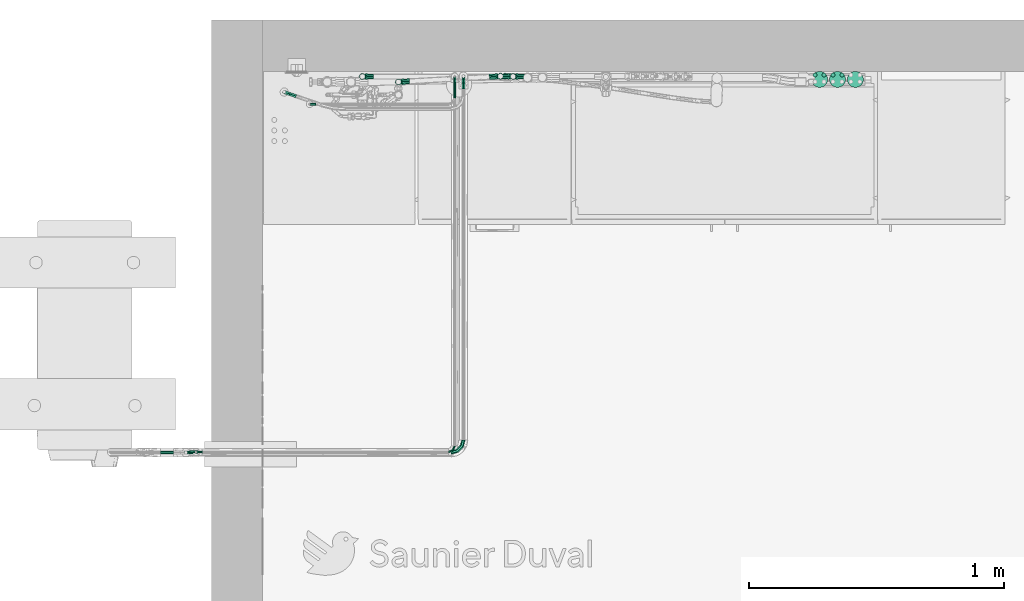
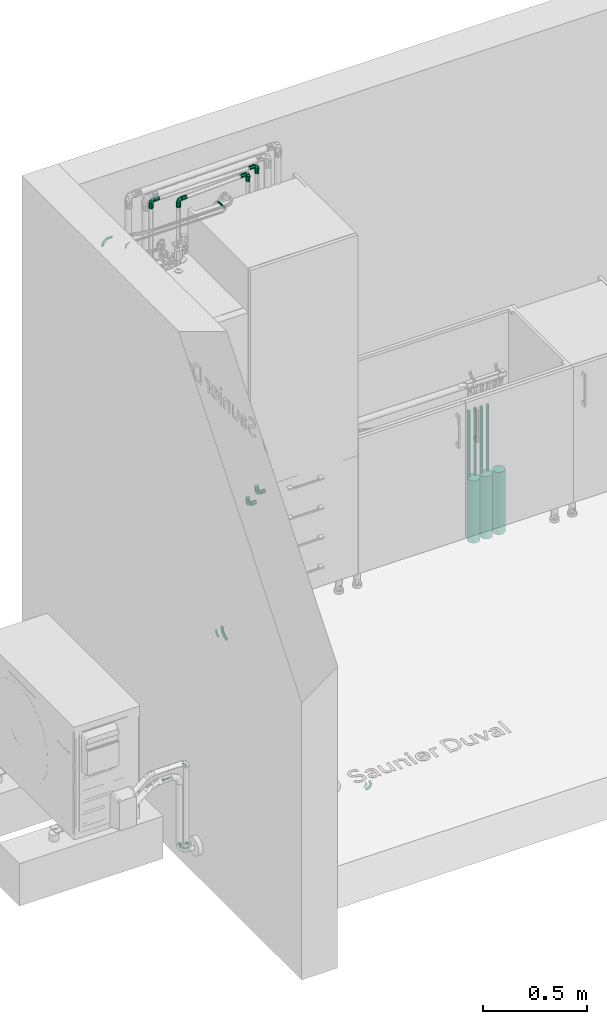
# One storey, part 21 of 30: 15 flow fittings, 9 flow segments.
"""IFC2X3 building model written with IfcOpenShell, lengths in metres."""

from ifc_helpers import new_model, entity, si_unit, converted_unit, derived_unit, direction, frame, frame_2d, origin, origin_2d_with_axis, place, context, subcontext, project, spatial, circle, extrude, faceted_brep, source, transform, mapped, material, material_list, type_object, type_shapes, element, save


model = new_model("IFC2X3")

# Units and contexts
model_context = context("Model", 3, precision=1e-05, world=origin(), true_north=direction((6.123031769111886e-17, 1.0)))
body_context = subcontext(model_context, "Body", "Model", "MODEL_VIEW")
ifc_project = project(units=[si_unit("LENGTHUNIT", "METRE"), si_unit("AREAUNIT", "SQUARE_METRE"), si_unit("VOLUMEUNIT", "CUBIC_METRE"), converted_unit("PLANEANGLEUNIT", "DEGREE", entity("IfcPlaneAngleMeasure", 0.017453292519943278), si_unit("PLANEANGLEUNIT", "RADIAN"), dimensions=[0, 0, 0, 0, 0, 0, 0]), si_unit("MASSUNIT", "GRAM", prefix="KILO"), derived_unit("MASSDENSITYUNIT", [(si_unit("MASSUNIT", "GRAM", prefix="KILO"), 1), (si_unit("LENGTHUNIT", "METRE"), -3)]), derived_unit("IONCONCENTRATIONUNIT", [(si_unit("MASSUNIT", "GRAM", prefix="KILO"), 1), (si_unit("LENGTHUNIT", "METRE"), -3)]), derived_unit("MOMENTOFINERTIAUNIT", [(si_unit("LENGTHUNIT", "METRE"), 4)]), si_unit("TIMEUNIT", "SECOND"), si_unit("FREQUENCYUNIT", "HERTZ"), si_unit("THERMODYNAMICTEMPERATUREUNIT", "DEGREE_CELSIUS"), derived_unit("THERMALTRANSMITTANCEUNIT", [(si_unit("MASSUNIT", "GRAM", prefix="KILO"), 1), (si_unit("THERMODYNAMICTEMPERATUREUNIT", "KELVIN"), -1), (si_unit("TIMEUNIT", "SECOND"), -3)]), derived_unit("THERMALCONDUCTANCEUNIT", [(si_unit("MASSUNIT", "GRAM", prefix="KILO"), 1), (si_unit("THERMODYNAMICTEMPERATUREUNIT", "KELVIN"), -1), (si_unit("TIMEUNIT", "SECOND"), -3), (si_unit("LENGTHUNIT", "METRE"), 1)]), derived_unit("VOLUMETRICFLOWRATEUNIT", [(si_unit("LENGTHUNIT", "METRE", prefix="DECI"), 3), (si_unit("TIMEUNIT", "SECOND"), -1)]), derived_unit("MASSFLOWRATEUNIT", [(si_unit("MASSUNIT", "GRAM", prefix="KILO"), 1), (si_unit("TIMEUNIT", "SECOND"), -1)]), derived_unit("ROTATIONALFREQUENCYUNIT", [(si_unit("TIMEUNIT", "SECOND"), -1)]), si_unit("ELECTRICCURRENTUNIT", "AMPERE"), si_unit("ELECTRICVOLTAGEUNIT", "VOLT"), si_unit("POWERUNIT", "WATT"), si_unit("FORCEUNIT", "NEWTON", prefix="KILO"), si_unit("ILLUMINANCEUNIT", "LUX"), si_unit("LUMINOUSFLUXUNIT", "LUMEN"), si_unit("LUMINOUSINTENSITYUNIT", "CANDELA"), si_unit("ENERGYUNIT", "JOULE"), derived_unit("USERDEFINED", [(si_unit("MASSUNIT", "GRAM", prefix="KILO"), -1), (si_unit("LENGTHUNIT", "METRE"), -2), (si_unit("TIMEUNIT", "SECOND"), 3), (si_unit("LUMINOUSFLUXUNIT", "LUMEN"), 1)]), derived_unit("USERDEFINED", [(si_unit("MASSUNIT", "GRAM", prefix="KILO"), 1), (si_unit("TIMEUNIT", "SECOND"), -3), (si_unit("LENGTHUNIT", "METRE"), 3), (si_unit("ELECTRICCURRENTUNIT", "AMPERE"), -2)]), derived_unit("SOUNDPOWERUNIT", [(si_unit("MASSUNIT", "GRAM", prefix="KILO"), 1), (si_unit("TIMEUNIT", "SECOND"), -3), (si_unit("LENGTHUNIT", "METRE"), 2)]), derived_unit("SOUNDPRESSUREUNIT", [(si_unit("MASSUNIT", "GRAM", prefix="KILO"), 1), (si_unit("LENGTHUNIT", "METRE"), -1), (si_unit("TIMEUNIT", "SECOND"), -2)]), derived_unit("LINEARVELOCITYUNIT", [(si_unit("LENGTHUNIT", "METRE"), 1), (si_unit("TIMEUNIT", "SECOND"), -1)]), si_unit("PRESSUREUNIT", "PASCAL"), derived_unit("USERDEFINED", [(si_unit("MASSUNIT", "GRAM", prefix="KILO"), 1), (si_unit("LENGTHUNIT", "METRE"), -2), (si_unit("TIMEUNIT", "SECOND"), -2)]), derived_unit("LINEARFORCEUNIT", [(si_unit("MASSUNIT", "GRAM", prefix="KILO"), 1), (si_unit("TIMEUNIT", "SECOND"), -2)]), derived_unit("PLANARFORCEUNIT", [(si_unit("MASSUNIT", "GRAM", prefix="KILO"), 1), (si_unit("LENGTHUNIT", "METRE"), -1), (si_unit("TIMEUNIT", "SECOND"), -2)]), derived_unit("SPECIFICHEATCAPACITYUNIT", [(si_unit("THERMODYNAMICTEMPERATUREUNIT", "KELVIN"), -1), (si_unit("LENGTHUNIT", "METRE"), 2), (si_unit("TIMEUNIT", "SECOND"), -2)]), derived_unit("HEATFLUXDENSITYUNIT", [(si_unit("MASSUNIT", "GRAM", prefix="KILO"), 1), (si_unit("TIMEUNIT", "SECOND"), -3)]), derived_unit("HEATINGVALUEUNIT", [(si_unit("LENGTHUNIT", "METRE"), 2), (si_unit("TIMEUNIT", "SECOND"), -2)]), derived_unit("VAPORPERMEABILITYUNIT", [(si_unit("LENGTHUNIT", "METRE"), -1), (si_unit("TIMEUNIT", "SECOND"), 1)]), derived_unit("DYNAMICVISCOSITYUNIT", [(si_unit("MASSUNIT", "GRAM", prefix="KILO"), 1), (si_unit("TIMEUNIT", "SECOND"), -1), (si_unit("LENGTHUNIT", "METRE"), -1)]), derived_unit("THERMALEXPANSIONCOEFFICIENTUNIT", [(si_unit("THERMODYNAMICTEMPERATUREUNIT", "KELVIN"), -1)]), derived_unit("MODULUSOFELASTICITYUNIT", [(si_unit("MASSUNIT", "GRAM", prefix="KILO"), 1), (si_unit("LENGTHUNIT", "METRE"), -1), (si_unit("TIMEUNIT", "SECOND"), -2)]), derived_unit("ISOTHERMALMOISTURECAPACITYUNIT", [(si_unit("MASSUNIT", "GRAM", prefix="KILO"), -1), (si_unit("LENGTHUNIT", "METRE"), 3)]), derived_unit("MOISTUREDIFFUSIVITYUNIT", [(si_unit("TIMEUNIT", "SECOND"), -1), (si_unit("LENGTHUNIT", "METRE"), 2)]), derived_unit("MASSPERLENGTHUNIT", [(si_unit("MASSUNIT", "GRAM", prefix="KILO"), 1), (si_unit("LENGTHUNIT", "METRE"), -1)]), derived_unit("THERMALRESISTANCEUNIT", [(si_unit("MASSUNIT", "GRAM", prefix="KILO"), -1), (si_unit("TIMEUNIT", "SECOND"), 3), (si_unit("THERMODYNAMICTEMPERATUREUNIT", "KELVIN"), 1)]), derived_unit("ACCELERATIONUNIT", [(si_unit("LENGTHUNIT", "METRE"), 1), (si_unit("TIMEUNIT", "SECOND"), -2)]), derived_unit("ANGULARVELOCITYUNIT", [(si_unit("TIMEUNIT", "SECOND"), -1), (si_unit("PLANEANGLEUNIT", "RADIAN"), 1)]), derived_unit("LINEARSTIFFNESSUNIT", [(si_unit("MASSUNIT", "GRAM", prefix="KILO"), 1), (si_unit("TIMEUNIT", "SECOND"), -2)]), derived_unit("WARPINGCONSTANTUNIT", [(si_unit("LENGTHUNIT", "METRE"), 6)]), derived_unit("LINEARMOMENTUNIT", [(si_unit("MASSUNIT", "GRAM", prefix="KILO"), 1), (si_unit("LENGTHUNIT", "METRE"), 1), (si_unit("TIMEUNIT", "SECOND"), -2)]), derived_unit("TORQUEUNIT", [(si_unit("MASSUNIT", "GRAM", prefix="KILO"), 1), (si_unit("LENGTHUNIT", "METRE"), 2), (si_unit("TIMEUNIT", "SECOND"), -2)])], contexts=[model_context])

# Site, building, storey
site_placement = place(None, origin())
site = spatial("IfcSite", under=ifc_project, at=site_placement, Name="Default", CompositionType="ELEMENT")
building_placement = place(site_placement, origin())
building = spatial("IfcBuilding", under=site, at=building_placement, CompositionType="ELEMENT")
storey_placement = place(building_placement, origin())
storey = spatial("IfcBuildingStorey", under=building, at=storey_placement, Name="Niveau 0", CompositionType="ELEMENT", Elevation=-1.949160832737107e-14)

# Flow fittings
ifc_material_1 = material(Name="Cuivre")
pipe_fitting_type_1 = type_object("IfcPipeFittingType", Name="Coude - tube frigo:Standard", PredefinedType="NOTDEFINED", material=ifc_material_1)
shared_shape_1 = source(origin(), body_context, "Body", "Brep", [
    faceted_brep([(-0.004088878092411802, 0.004088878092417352, 0.0), (-0.007058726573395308, 0.007058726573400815, -0.004200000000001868), (0.0, 0.024099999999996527, -0.004200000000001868), (0.0042000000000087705, 0.024099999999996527, 0.0), (-0.010028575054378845, 0.010028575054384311, 0.0), (-0.00419999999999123, 0.024099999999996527, 0.0), (-0.00705872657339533, 0.007058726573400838, 0.004199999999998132), (0.0, 0.024099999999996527, 0.004199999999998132), (-0.024099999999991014, -0.004200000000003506, 0.0), (-0.024099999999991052, 0.0, -0.004200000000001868), (-0.02409999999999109, 0.0041999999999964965, 0.0), (-0.024099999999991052, 0.0, 0.004199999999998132)], [[[0, 1, 2, 3]], [[1, 4, 5, 2]], [[4, 6, 7, 5]], [[6, 0, 3, 7]], [[8, 9, 1, 0]], [[9, 10, 4, 1]], [[10, 11, 6, 4]], [[11, 8, 0, 6]], [[3, 2, 5, 7]], [[11, 10, 9, 8]]]),
])
type_shapes(pipe_fitting_type_1, [shared_shape_1])
for number, where, z_axis, x_axis, name in (
    (1, (-19.86316439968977, 2.8482764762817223, -0.3999999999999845), (-1.0, 0.0, 0.0), (0.0, 0.0, -1.0), "Coude - tube frigo:Standard"),
    (2, (-20.87690869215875, 1.377053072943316, 0.09334358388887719), (0.0, 1.0, 0.0), (1.0, 0.0, 0.0), "Coude - tube frigo:Standard"),
):
    element("IfcFlowFitting", number, at=place(storey_placement, frame(where, z_axis=z_axis, x_axis=x_axis)), inside=storey, type_object=pipe_fitting_type_1, material=ifc_material_1, Name=name, ObjectType="Coude - tube frigo:Standard", context=body_context, shape_type="MappedRepresentation", body=[
        mapped(shared_shape_1, transform((0.0, 0.0, 0.0), scale=1.0)),
    ])
flow_fitting_1_placement = place(storey_placement, frame((-19.863164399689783, 1.3770530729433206, -0.3999999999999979)))
element("IfcFlowFitting", 3, at=flow_fitting_1_placement, inside=storey, type_object=pipe_fitting_type_1, material=ifc_material_1, Name="Coude - tube frigo:Standard", ObjectType="Coude - tube frigo:Standard", context=body_context, shape_type="MappedRepresentation", body=[
    mapped(shared_shape_1, transform((0.0, 0.0, 0.0), scale=1.0)),
])
for number, where, z_axis, x_axis, name in (
    (4, (-20.876908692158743, 1.377053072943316, -0.3999999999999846), (0.0, -1.0, 0.0), (0.0, 0.0, -1.0), "Coude - tube frigo:Standard"),
    (5, (-20.43128939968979, 2.7395264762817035, 2.162088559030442), (0.0, 1.0, 0.0), (0.0, 0.0, 1.0), "Coude - tube frigo:Standard"),
):
    element("IfcFlowFitting", number, at=place(storey_placement, frame(where, z_axis=z_axis, x_axis=x_axis)), inside=storey, type_object=pipe_fitting_type_1, material=ifc_material_1, Name=name, ObjectType="Coude - tube frigo:Standard", context=body_context, shape_type="MappedRepresentation", body=[
        mapped(shared_shape_1, transform((0.0, 0.0, 0.0), scale=1.0)),
    ])

# Flow segments
pipe_segment_type_1 = type_object("IfcPipeSegmentType", Name="Canalisation:PVC - NF", PredefinedType="NOTDEFINED")
flow_segment_1_placement = place(storey_placement, origin())
element("IfcFlowSegment", 6, at=flow_segment_1_placement, inside=storey, type_object=pipe_segment_type_1, Name="Canalisation:PVC - NF", ObjectType="Canalisation:PVC - NF", context=body_context, shape_type="SweptSolid", body=[
    extrude(circle(Radius=0.0315, at=frame_2d((2.1657342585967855e-15, -5.414335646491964e-16), x_axis=(1.0, 0.0))), frame((-18.43354113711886, 2.836757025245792, -0.3365000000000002)), (0.0, 0.0, 1.0), 0.3681530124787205),
])
flow_segment_2_placement = place(storey_placement, origin())
element("IfcFlowSegment", 7, at=flow_segment_2_placement, inside=storey, type_object=pipe_segment_type_1, Name="Canalisation:PVC - NF", ObjectType="Canalisation:PVC - NF", context=body_context, shape_type="SweptSolid", body=[
    extrude(circle(Radius=0.0315, at=frame_2d((0.0, -5.414335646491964e-16), x_axis=(1.0, 0.0))), frame((-18.36354113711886, 2.836757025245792, -0.3365000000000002)), (0.0, 0.0, 1.0), 0.3681530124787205),
])
flow_segment_3_placement = place(storey_placement, origin())
element("IfcFlowSegment", 8, at=flow_segment_3_placement, inside=storey, type_object=pipe_segment_type_1, Name="Canalisation:PVC - NF", ObjectType="Canalisation:PVC - NF", context=body_context, shape_type="SweptSolid", body=[
    extrude(circle(Radius=0.0315, at=origin_2d_with_axis()), frame((-18.293541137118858, 2.836757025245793, -0.3365000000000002)), (0.0, 0.0, 1.0), 0.3681530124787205),
])
pipe_segment_type_2 = type_object("IfcPipeSegmentType", Name="Canalisation:Cuivre Frigo", PredefinedType="NOTDEFINED")
flow_segment_4_placement = place(storey_placement, origin())
element("IfcFlowSegment", 9, at=flow_segment_4_placement, inside=storey, type_object=pipe_segment_type_2, Name="Canalisation:Cuivre Frigo", ObjectType="Canalisation:Cuivre Frigo", context=body_context, shape_type="SweptSolid", body=[
    extrude(circle(Radius=0.00635, at=frame_2d((0.0, -4.229949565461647e-18), x_axis=(1.0, 0.0))), frame((-21.015311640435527, 1.3750530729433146, 0.03567251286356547), z_axis=(0.9999999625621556, 0.0, 0.0002736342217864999), x_axis=(0.0, 1.0, 0.0)), (0.0, 0.0, 1.0), 0.04967560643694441),
])
flow_segment_5_placement = place(storey_placement, origin())
element("IfcFlowSegment", 10, at=flow_segment_5_placement, inside=storey, type_object=pipe_segment_type_2, Name="Canalisation:Cuivre Frigo", ObjectType="Canalisation:Cuivre Frigo", context=body_context, shape_type="SweptSolid", body=[
    extrude(circle(Radius=0.0032, at=frame_2d((0.0, -2.707167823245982e-16), x_axis=(1.0, 0.0))), frame((-19.86316439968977, 2.7636264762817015, 2.1620885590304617), z_axis=(0.0, 1.0, 0.0), x_axis=(1.0, 0.0, 0.0)), (0.0, 0.0, 1.0), 0.0605500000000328),
])

# Flow fittings
ifc_material_2 = material(Name="PPSU")
ifc_material_3 = material(Name="Bague blanche VisuControl")
ifc_material_4 = material(Name="Inox")
ifc_material_list_1 = material_list([ifc_material_2, ifc_material_3, ifc_material_4])
pipe_fitting_type_2 = type_object("IfcPipeFittingType", Name="COMAP - SKINPRESS ppsu - Coude_45_90_9041W_9090W:Coude_45_90_9041W_9090W", PredefinedType="NOTDEFINED", material=ifc_material_list_1)
shared_shape_2 = source(origin(), body_context, "Body", "Brep", [
    faceted_brep([(0.010825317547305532, 0.01600000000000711, -0.006250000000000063), (0.012500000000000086, 0.016000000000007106, 0.0), (0.010825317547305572, 0.01600000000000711, 0.006249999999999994), (0.003235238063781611, 0.016000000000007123, 0.012074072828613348), (-0.0032352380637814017, 0.016000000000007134, 0.012074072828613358), (-0.010825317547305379, 0.016000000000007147, 0.006250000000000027), (-0.012499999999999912, 0.01600000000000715, 0.0), (-0.010825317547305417, 0.016000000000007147, -0.006249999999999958), (-0.003235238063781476, 0.016000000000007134, -0.01207407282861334), (0.003235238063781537, 0.016000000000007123, -0.012074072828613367), (-0.010825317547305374, 0.020000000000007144, 0.006250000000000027), (-0.003235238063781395, 0.020000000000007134, 0.012074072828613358), (0.0032352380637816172, 0.020000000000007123, 0.012074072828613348), (0.010825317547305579, 0.020000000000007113, 0.006249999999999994), (0.012500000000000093, 0.020000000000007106, 0.0), (0.010825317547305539, 0.020000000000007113, -0.006250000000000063), (0.0032352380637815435, 0.020000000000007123, -0.012074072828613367), (-0.0032352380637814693, 0.020000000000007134, -0.01207407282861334), (-0.01082531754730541, 0.020000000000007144, -0.006249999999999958), (-0.012499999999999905, 0.02000000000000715, 0.0)], [[[0, 1, 2, 3, 4, 5, 6, 7, 8, 9]], [[10, 11, 12, 13, 14, 15, 16, 17, 18, 19]], [[7, 6, 19, 18]], [[8, 7, 18, 17]], [[17, 16, 9, 8]], [[0, 9, 16, 15]], [[1, 0, 15, 14]], [[2, 1, 14, 13]], [[3, 2, 13, 12]], [[12, 11, 4, 3]], [[5, 4, 11, 10]], [[6, 5, 10, 19]]]),
    faceted_brep([(0.009526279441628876, 0.015000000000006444, -0.005500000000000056), (0.011000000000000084, 0.015000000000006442, 0.0), (0.009526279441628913, 0.015000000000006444, 0.0054999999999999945), (0.002847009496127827, 0.015000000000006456, 0.010625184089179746), (-0.002847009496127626, 0.015000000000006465, 0.010625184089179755), (-0.009526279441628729, 0.015000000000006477, 0.005500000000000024), (-0.010999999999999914, 0.01500000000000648, 0.0), (-0.009526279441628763, 0.015000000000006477, -0.005499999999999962), (-0.0028470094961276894, 0.015000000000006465, -0.010625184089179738), (0.0028470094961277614, 0.015000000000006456, -0.010625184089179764), (-0.010999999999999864, 0.04400000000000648, 0.0), (-0.009526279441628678, 0.04400000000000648, 0.005500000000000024), (-0.0028470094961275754, 0.04400000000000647, 0.010625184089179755), (0.0028470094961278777, 0.04400000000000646, 0.010625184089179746), (0.009526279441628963, 0.044000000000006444, 0.0054999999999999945), (0.011000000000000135, 0.044000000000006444, 0.0), (0.009526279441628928, 0.044000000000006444, -0.005500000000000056), (0.002847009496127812, 0.04400000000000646, -0.010625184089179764), (-0.0028470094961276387, 0.04400000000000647, -0.010625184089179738), (-0.009526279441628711, 0.04400000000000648, -0.005499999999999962)], [[[0, 1, 2, 3, 4, 5, 6, 7, 8, 9]], [[10, 11, 12, 13, 14, 15, 16, 17, 18, 19]], [[7, 6, 10, 19]], [[8, 7, 19, 18]], [[18, 17, 9, 8]], [[0, 9, 17, 16]], [[1, 0, 16, 15]], [[2, 1, 15, 14]], [[3, 2, 14, 13]], [[13, 12, 4, 3]], [[5, 4, 12, 11]], [[6, 5, 11, 10]]]),
    faceted_brep([(-0.015999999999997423, 0.010825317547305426, -0.006250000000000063), (-0.01599999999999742, 0.01249999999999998, 0.0), (-0.015999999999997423, 0.010825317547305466, 0.006249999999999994), (-0.015999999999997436, 0.0032352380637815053, 0.012074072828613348), (-0.015999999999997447, -0.0032352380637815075, 0.012074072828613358), (-0.015999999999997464, -0.010825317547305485, 0.006250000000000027), (-0.015999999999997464, -0.012500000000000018, 0.0), (-0.015999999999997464, -0.010825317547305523, -0.006249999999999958), (-0.015999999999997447, -0.0032352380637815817, -0.01207407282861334), (-0.015999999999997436, 0.003235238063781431, -0.012074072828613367), (-0.019999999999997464, -0.010825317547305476, 0.006250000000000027), (-0.01999999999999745, -0.003235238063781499, 0.012074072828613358), (-0.019999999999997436, 0.0032352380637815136, 0.012074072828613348), (-0.019999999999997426, 0.010825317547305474, 0.006249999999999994), (-0.01999999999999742, 0.012499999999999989, 0.0), (-0.019999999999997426, 0.010825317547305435, -0.006250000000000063), (-0.019999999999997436, 0.00323523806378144, -0.012074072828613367), (-0.01999999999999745, -0.003235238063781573, -0.01207407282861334), (-0.019999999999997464, -0.010825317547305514, -0.006249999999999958), (-0.019999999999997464, -0.01250000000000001, 0.0)], [[[0, 1, 2, 3, 4, 5, 6, 7, 8, 9]], [[10, 11, 12, 13, 14, 15, 16, 17, 18, 19]], [[7, 6, 19, 18]], [[8, 7, 18, 17]], [[17, 16, 9, 8]], [[0, 9, 16, 15]], [[1, 0, 15, 14]], [[2, 1, 14, 13]], [[3, 2, 13, 12]], [[12, 11, 4, 3]], [[5, 4, 11, 10]], [[6, 5, 10, 19]]]),
    faceted_brep([(-0.014999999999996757, 0.009526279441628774, -0.005500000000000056), (-0.014999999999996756, 0.01099999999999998, 0.0), (-0.014999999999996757, 0.009526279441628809, 0.0054999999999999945), (-0.01499999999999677, 0.0028470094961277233, 0.010625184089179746), (-0.01499999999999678, -0.0028470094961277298, 0.010625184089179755), (-0.01499999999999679, -0.009526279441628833, 0.005500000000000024), (-0.014999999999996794, -0.011000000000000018, 0.0), (-0.01499999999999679, -0.009526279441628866, -0.005499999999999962), (-0.01499999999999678, -0.002847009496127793, -0.010625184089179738), (-0.01499999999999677, 0.002847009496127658, -0.010625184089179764), (-0.0439999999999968, -0.010999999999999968, 0.0), (-0.04399999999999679, -0.009526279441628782, 0.005500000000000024), (-0.043999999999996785, -0.002847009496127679, 0.010625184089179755), (-0.04399999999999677, 0.002847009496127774, 0.010625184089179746), (-0.04399999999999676, 0.00952627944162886, 0.0054999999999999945), (-0.04399999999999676, 0.01100000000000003, 0.0), (-0.04399999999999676, 0.009526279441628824, -0.005500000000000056), (-0.04399999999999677, 0.0028470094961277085, -0.010625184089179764), (-0.043999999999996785, -0.0028470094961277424, -0.010625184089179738), (-0.04399999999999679, -0.009526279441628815, -0.005499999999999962)], [[[0, 1, 2, 3, 4, 5, 6, 7, 8, 9]], [[10, 11, 12, 13, 14, 15, 16, 17, 18, 19]], [[7, 6, 10, 19]], [[8, 7, 19, 18]], [[18, 17, 9, 8]], [[0, 9, 17, 16]], [[1, 0, 16, 15]], [[2, 1, 15, 14]], [[3, 2, 14, 13]], [[13, 12, 4, 3]], [[5, 4, 12, 11]], [[6, 5, 11, 10]]]),
    faceted_brep([(-0.01499999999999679, -0.009526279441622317, -0.005500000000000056), (-0.014999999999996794, -0.010999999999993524, 0.0), (-0.01499999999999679, -0.009526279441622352, 0.0054999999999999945), (-0.01499999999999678, -0.0028470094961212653, 0.010625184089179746), (-0.01499999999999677, 0.0028470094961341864, 0.010625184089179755), (-0.014999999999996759, 0.00952627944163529, 0.005500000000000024), (-0.014999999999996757, 0.011000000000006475, 0.0), (-0.014999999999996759, 0.009526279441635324, -0.005499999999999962), (-0.01499999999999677, 0.0028470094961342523, -0.010625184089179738), (-0.01499999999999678, -0.0028470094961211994, -0.010625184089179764), (-0.011999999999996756, 0.011000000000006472, 0.0), (-0.011999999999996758, 0.009526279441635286, 0.005500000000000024), (-0.011999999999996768, 0.0028470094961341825, 0.010625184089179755), (-0.011999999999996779, -0.0028470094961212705, 0.010625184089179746), (-0.01199999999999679, -0.009526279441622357, 0.0054999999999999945), (-0.011999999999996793, -0.010999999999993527, 0.0), (-0.01199999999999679, -0.00952627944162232, -0.005500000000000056), (-0.011999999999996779, -0.002847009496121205, -0.010625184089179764), (-0.011999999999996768, 0.002847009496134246, -0.010625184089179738), (-0.011999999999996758, 0.009526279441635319, -0.005499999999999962)], [[[0, 1, 2, 3, 4, 5, 6, 7, 8, 9]], [[10, 11, 12, 13, 14, 15, 16, 17, 18, 19]], [[7, 6, 10, 19]], [[8, 7, 19, 18]], [[18, 17, 9, 8]], [[0, 9, 17, 16]], [[1, 0, 16, 15]], [[2, 1, 15, 14]], [[3, 2, 14, 13]], [[13, 12, 4, 3]], [[5, 4, 12, 11]], [[6, 5, 11, 10]]]),
    faceted_brep([(-0.0054999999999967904, 0.015000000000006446, 0.009526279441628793), (0.0, 0.015000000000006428, 0.011), (0.00550000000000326, 0.015000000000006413, 0.009526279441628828), (0.010625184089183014, 0.015000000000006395, 0.0028470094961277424), (0.010625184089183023, 0.015000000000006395, -0.0028470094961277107), (0.00550000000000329, 0.015000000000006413, -0.009526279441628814), (0.0, 0.015000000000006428, -0.011), (-0.005499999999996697, 0.015000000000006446, -0.009526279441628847), (-0.010625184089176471, 0.015000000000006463, -0.002847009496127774), (-0.010625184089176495, 0.015000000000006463, 0.002847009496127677), (0.0, 0.012000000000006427, -0.011), (0.00550000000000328, 0.012000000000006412, -0.009526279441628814), (0.010625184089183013, 0.012000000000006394, -0.0028470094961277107), (0.010625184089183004, 0.012000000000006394, 0.0028470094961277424), (0.0055000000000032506, 0.012000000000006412, 0.009526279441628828), (0.0, 0.012000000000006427, 0.011), (-0.0054999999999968, 0.012000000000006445, 0.009526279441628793), (-0.010625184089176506, 0.012000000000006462, 0.002847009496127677), (-0.010625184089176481, 0.012000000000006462, -0.002847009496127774), (-0.005499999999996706, 0.012000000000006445, -0.009526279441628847)], [[[0, 1, 2, 3, 4, 5, 6, 7, 8, 9]], [[10, 11, 12, 13, 14, 15, 16, 17, 18, 19]], [[7, 6, 10, 19]], [[8, 7, 19, 18]], [[18, 17, 9, 8]], [[0, 9, 17, 16]], [[1, 0, 16, 15]], [[2, 1, 15, 14]], [[3, 2, 14, 13]], [[13, 12, 4, 3]], [[5, 4, 12, 11]], [[6, 5, 11, 10]]]),
    faceted_brep([(0.004263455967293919, -0.004263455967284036, 0.0), (0.00037436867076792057, -0.00037436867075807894, -0.009526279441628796), (0.0055000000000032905, 0.012000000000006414, -0.009526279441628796), (0.011000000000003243, 0.012000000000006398, 0.0), (-0.007403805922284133, 0.007403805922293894, -0.009526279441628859), (-0.005499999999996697, 0.012000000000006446, -0.009526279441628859), (-0.011292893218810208, 0.011292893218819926, 0.0), (-0.010999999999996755, 0.012000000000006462, 0.0), (-0.007403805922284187, 0.007403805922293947, 0.009526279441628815), (-0.005499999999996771, 0.012000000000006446, 0.009526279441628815), (0.000374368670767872, -0.00037436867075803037, 0.009526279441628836), (0.005500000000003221, 0.012000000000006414, 0.009526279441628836), (-0.011999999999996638, -0.010999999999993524, 0.0), (-0.011999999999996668, -0.005499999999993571, -0.009526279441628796), (-0.011999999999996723, 0.005500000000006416, -0.009526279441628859), (-0.011999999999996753, 0.011000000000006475, 0.0), (-0.011999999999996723, 0.005500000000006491, 0.009526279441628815), (-0.011999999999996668, -0.005499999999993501, 0.009526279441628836)], [[[0, 1, 2, 3]], [[1, 4, 5, 2]], [[4, 6, 7, 5]], [[6, 8, 9, 7]], [[8, 10, 11, 9]], [[10, 0, 3, 11]], [[12, 13, 1, 0]], [[13, 14, 4, 1]], [[14, 15, 6, 4]], [[15, 16, 8, 6]], [[16, 17, 10, 8]], [[17, 12, 0, 10]], [[3, 2, 5, 7, 9, 11]], [[17, 16, 15, 14, 13, 12]]]),
])
type_shapes(pipe_fitting_type_2, [shared_shape_2])
flow_fitting_2_placement = place(storey_placement, frame((-19.634537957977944, 2.8480800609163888, 0.35), z_axis=(0.0010646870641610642, -0.9999994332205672, 0.0), x_axis=(0.0, 0.0, -1.0)))
element("IfcFlowFitting", 11, at=flow_fitting_2_placement, inside=storey, type_object=pipe_fitting_type_2, material=ifc_material_list_1, Name="COMAP - SKINPRESS ppsu - Coude_45_90_9041W_9090W:Coude_45_90_9041W_9090W", ObjectType="COMAP - SKINPRESS ppsu - Coude_45_90_9041W_9090W:Coude_45_90_9041W_9090W", context=body_context, shape_type="MappedRepresentation", body=[
    mapped(shared_shape_2, transform((0.0, 0.0, 0.0), scale=1.0)),
])
ifc_material_list_2 = material_list([ifc_material_3, ifc_material_4, ifc_material_2])
for number, where, z_axis, x_axis in (
    (12, (-19.683748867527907, 2.8492961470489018, 0.3000000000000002), (0.0, -1.0, 0.0), (0.0, 0.0, -1.0)),
    (13, (-20.224537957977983, 2.8480800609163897, 2.280498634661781), (0.0, 1.0, 0.0), (0.0, 0.0, 1.0)),
    (14, (-19.634537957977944, 2.8480800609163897, 2.280498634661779), (0.0, 1.0, 0.0), (1.0, 0.0, 0.0)),
    (15, (-20.08374886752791, 2.8269022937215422, 2.2500419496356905), (-0.0558971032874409, 0.9984365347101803, 0.0), (0.0, 0.0, 1.0)),
    (16, (-19.683748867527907, 2.8492961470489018, 2.250041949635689), (0.05589710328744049, -0.9984365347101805, 0.0), (0.0, 0.0, 1.0)),
):
    element("IfcFlowFitting", number, at=place(storey_placement, frame(where, z_axis=z_axis, x_axis=x_axis)), inside=storey, type_object=pipe_fitting_type_2, material=ifc_material_list_2, Name="COMAP - SKINPRESS ppsu - Coude_45_90_9041W_9090W:Coude_45_90_9041W_9090W", ObjectType="COMAP - SKINPRESS ppsu - Coude_45_90_9041W_9090W:Coude_45_90_9041W_9090W", context=body_context, shape_type="MappedRepresentation", body=[
        mapped(shared_shape_2, transform((0.0, 0.0, 0.0), scale=1.0)),
    ])

# Flow segments
pipe_segment_type_3 = type_object("IfcPipeSegmentType", Name="Canalisation:PER Rouge", PredefinedType="NOTDEFINED")
flow_segment_6_placement = place(storey_placement, origin())
element("IfcFlowSegment", 17, at=flow_segment_6_placement, inside=storey, type_object=pipe_segment_type_3, Name="Canalisation:PER Rouge", ObjectType="Canalisation:PER Rouge", context=body_context, shape_type="SweptSolid", body=[
    extrude(circle(Radius=0.008, at=frame_2d((-2.1657342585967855e-15, 5.414335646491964e-16), x_axis=(1.0, 0.0))), frame((-18.346400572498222, 2.8539082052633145, -0.17415641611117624)), (0.0, 0.0, 1.0), 0.5954144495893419),
])
flow_segment_7_placement = place(storey_placement, origin())
element("IfcFlowSegment", 18, at=flow_segment_7_placement, inside=storey, type_object=pipe_segment_type_3, Name="Canalisation:PER Rouge", ObjectType="Canalisation:PER Rouge", context=body_context, shape_type="SweptSolid", body=[
    extrude(circle(Radius=0.008, at=frame_2d((0.0, 5.414335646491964e-16), x_axis=(1.0, 0.0))), frame((-18.381456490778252, 2.8539082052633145, -0.17415641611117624)), (0.0, 0.0, 1.0), 0.5954144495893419),
])
flow_segment_8_placement = place(storey_placement, origin())
element("IfcFlowSegment", 19, at=flow_segment_8_placement, inside=storey, type_object=pipe_segment_type_3, Name="Canalisation:PER Rouge", ObjectType="Canalisation:PER Rouge", context=body_context, shape_type="SweptSolid", body=[
    extrude(circle(Radius=0.008, at=frame_2d((0.0, 5.414335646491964e-16), x_axis=(1.0, 0.0))), frame((-18.416498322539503, 2.8539082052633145, -0.17415641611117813)), (0.0, 0.0, 1.0), 0.5954144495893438),
])
flow_segment_9_placement = place(storey_placement, origin())
element("IfcFlowSegment", 20, at=flow_segment_9_placement, inside=storey, type_object=pipe_segment_type_3, Name="Canalisation:PER Rouge", ObjectType="Canalisation:PER Rouge", context=body_context, shape_type="SweptSolid", body=[
    extrude(circle(Radius=0.008, at=frame_2d((0.0, 5.414335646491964e-16), x_axis=(1.0, 0.0))), frame((-18.45154113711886, 2.8539082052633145, -0.17415641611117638)), (0.0, 0.0, 1.0), 0.5954144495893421),
])

# Flow fittings
pipe_fitting_type_3 = type_object("IfcPipeFittingType", Name="Coude - tube frigo:Standard", PredefinedType="NOTDEFINED", material=ifc_material_1)
shared_shape_3 = source(origin(), body_context, "Body", "Brep", [
    faceted_brep([(-0.00023966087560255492, 0.02097499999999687, 0.0), (-0.003422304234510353, 0.022812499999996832, -0.006365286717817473), (0.003675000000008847, 0.049299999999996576, -0.006365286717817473), (0.0073500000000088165, 0.049299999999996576, 0.0), (-0.009787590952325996, 0.02648749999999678, -0.006365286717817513), (-0.003674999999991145, 0.049299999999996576, -0.006365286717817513), (-0.012970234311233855, 0.028324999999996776, 0.0), (-0.007349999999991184, 0.049299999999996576, 0.0), (-0.00978759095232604, 0.02648749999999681, 0.00636528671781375), (-0.003674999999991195, 0.049299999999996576, 0.00636528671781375), (-0.003422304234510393, 0.022812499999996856, 0.0063652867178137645), (0.0036750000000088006, 0.049299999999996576, 0.0063652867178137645), (-0.020974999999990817, 0.00023966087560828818, 0.0), (-0.022812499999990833, 0.003422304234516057, -0.006365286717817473), (-0.02648749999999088, 0.009787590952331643, -0.006365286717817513), (-0.028324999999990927, 0.012970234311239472, 0.0), (-0.026487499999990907, 0.009787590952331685, 0.00636528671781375), (-0.022812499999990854, 0.003422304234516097, 0.0063652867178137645), (-0.04929999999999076, -0.007350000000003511, 0.0), (-0.049299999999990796, -0.0036750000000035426, -0.006365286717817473), (-0.049299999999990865, 0.0036749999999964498, -0.006365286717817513), (-0.0492999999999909, 0.007349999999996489, 0.0), (-0.049299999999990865, 0.0036749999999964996, 0.00636528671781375), (-0.049299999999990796, -0.0036750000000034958, 0.0063652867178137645)], [[[0, 1, 2, 3]], [[1, 4, 5, 2]], [[4, 6, 7, 5]], [[6, 8, 9, 7]], [[8, 10, 11, 9]], [[10, 0, 3, 11]], [[12, 13, 1, 0]], [[13, 14, 4, 1]], [[14, 15, 6, 4]], [[15, 16, 8, 6]], [[16, 17, 10, 8]], [[17, 12, 0, 10]], [[18, 19, 13, 12]], [[19, 20, 14, 13]], [[20, 21, 15, 14]], [[21, 22, 16, 15]], [[22, 23, 17, 16]], [[23, 18, 12, 17]], [[3, 2, 5, 7, 9, 11]], [[23, 22, 21, 20, 19, 18]]]),
])
type_shapes(pipe_fitting_type_3, [shared_shape_3])
flow_fitting_3_placement = place(storey_placement, frame((-20.916336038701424, 1.3750530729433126, -0.4149999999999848), z_axis=(0.0, -1.0, 0.0), x_axis=(0.0, 0.0, -1.0)))
element("IfcFlowFitting", 21, at=flow_fitting_3_placement, inside=storey, type_object=pipe_fitting_type_3, material=ifc_material_1, Name="Coude - tube frigo:Standard", ObjectType="Coude - tube frigo:Standard", context=body_context, shape_type="MappedRepresentation", body=[
    mapped(shared_shape_3, transform((0.0, 0.0, 0.0), scale=1.0)),
])
flow_fitting_4_placement = place(storey_placement, frame((-19.828789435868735, 1.3750530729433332, -0.4150000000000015)))
element("IfcFlowFitting", 22, at=flow_fitting_4_placement, inside=storey, type_object=pipe_fitting_type_3, material=ifc_material_1, Name="Coude - tube frigo:Standard", ObjectType="Coude - tube frigo:Standard", context=body_context, shape_type="MappedRepresentation", body=[
    mapped(shared_shape_3, transform((0.0, 0.0, 0.0), scale=1.0)),
])
for number, where, z_axis, x_axis, name in (
    (23, (-19.82878943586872, 2.849276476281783, -0.4149999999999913), (1.0, 0.0, 0.0), (0.0, 1.0, 0.0), "Coude - tube frigo:Standard"),
    (24, (-20.530759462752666, 2.787065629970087, 2.2051379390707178), (0.32556815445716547, 0.9455185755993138, 0.0), (0.0, 0.0, 1.0), "Coude - tube frigo:Standard"),
):
    element("IfcFlowFitting", number, at=place(storey_placement, frame(where, z_axis=z_axis, x_axis=x_axis)), inside=storey, type_object=pipe_fitting_type_3, material=ifc_material_1, Name=name, ObjectType="Coude - tube frigo:Standard", context=body_context, shape_type="MappedRepresentation", body=[
        mapped(shared_shape_3, transform((0.0, 0.0, 0.0), scale=1.0)),
    ])

save(model, "model.ifc")
